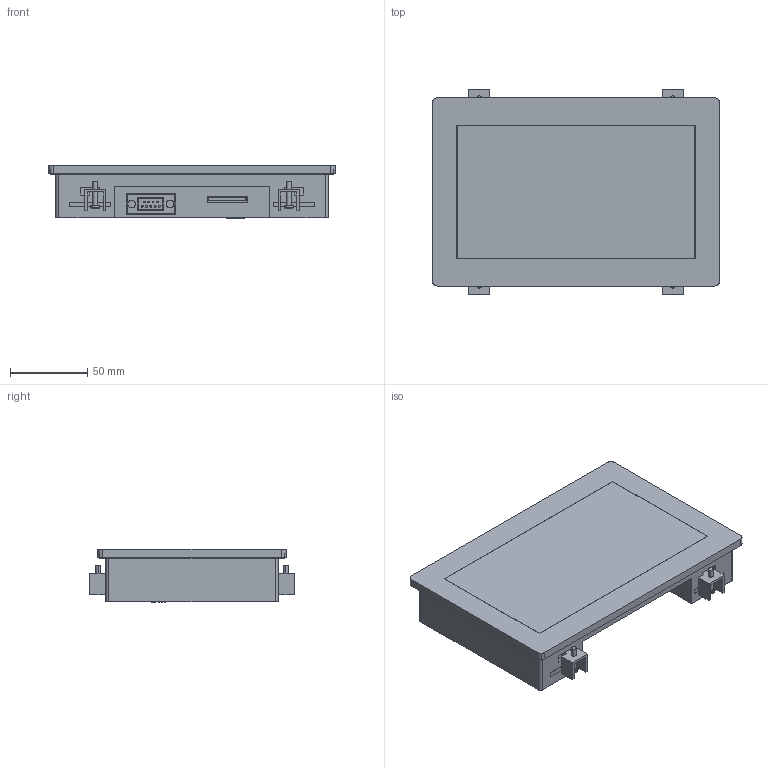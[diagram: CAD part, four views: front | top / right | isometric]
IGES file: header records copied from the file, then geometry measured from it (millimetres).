
Start section: SolidWorks IGES file using analytic representation for surfaces
Global section: file name: C:\catalog\aig707wcl1b2.IGS; native system: SolidWorks 2010; preprocessor: SolidWorks 2010; author: 90C1676; date: 150109.103026; units: millimetre
Bounding box: 186 x 132.6 x 34.5 mm (x, y, z)
Surface area: 97239.7 mm2 (no closed solid volume)
Topology: 0 solids, 0 shells, 841 faces, 5706 edges, 5706 vertices
Faces by surface type: bspline 775, revolution 66
